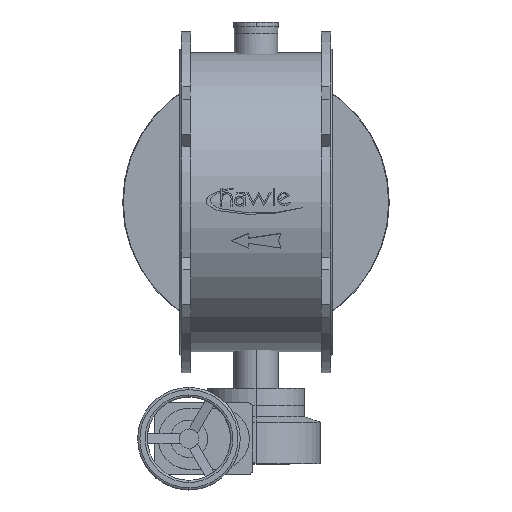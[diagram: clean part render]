
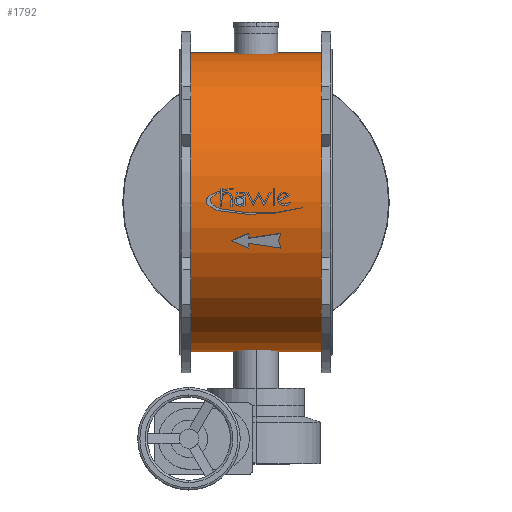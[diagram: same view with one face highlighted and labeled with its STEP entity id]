
A CAD part, top view. The second image highlights one B-rep face of the part: STEP entity #1792.
In plain terms, the highlighted cylindrical face has radius 540 mm (diameter 1080 mm), a partial arc.
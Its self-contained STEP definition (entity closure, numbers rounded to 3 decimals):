
#1792=ADVANCED_FACE('',(#3512),#3513,.T.);
#3512=FACE_OUTER_BOUND('',#5474,.T.);
#3513=CYLINDRICAL_SURFACE('',#5475,540.0);
#5474=EDGE_LOOP('',(#9012,#9013,#9014,#9015));
#5475=AXIS2_PLACEMENT_3D('',#9016,#9017,#9018);
#9012=ORIENTED_EDGE('',*,*,#11572,.T.);
#9013=ORIENTED_EDGE('',*,*,#10729,.T.);
#9014=ORIENTED_EDGE('',*,*,#11574,.T.);
#9015=ORIENTED_EDGE('',*,*,#11590,.T.);
#9016=CARTESIAN_POINT('',(-510.0,0.,0.0));
#9017=DIRECTION('',(1.0,0.,0.0));
#9018=DIRECTION('',(0.,-1.0,0.0));
#10729=EDGE_CURVE('',#12752,#12753,#12754,.T.);
#11572=EDGE_CURVE('',#13985,#12752,#13986,.T.);
#11574=EDGE_CURVE('',#12753,#13987,#13989,.T.);
#11590=EDGE_CURVE('',#13987,#13985,#14010,.T.);
#12752=VERTEX_POINT('',#15396);
#12753=VERTEX_POINT('',#15397);
#12754=CIRCLE('',#15398,540.0);
#13985=VERTEX_POINT('',#16946);
#13986=LINE('',#16947,#16948);
#13987=VERTEX_POINT('',#16949);
#13989=LINE('',#16951,#16952);
#14010=CIRCLE('',#16980,540.0);
#15396=CARTESIAN_POINT('',(-40.,-540.0,0.0));
#15397=CARTESIAN_POINT('',(-40.0,540.0,0.));
#15398=AXIS2_PLACEMENT_3D('',#18198,#18199,#18200);
#16946=CARTESIAN_POINT('',(-510.0,-540.0,0.0));
#16947=CARTESIAN_POINT('',(-510.0,-540.0,0.));
#16948=VECTOR('',#19391,1.0);
#16949=CARTESIAN_POINT('',(-510.0,540.0,0.));
#16951=CARTESIAN_POINT('',(-510.0,540.0,0.));
#16952=VECTOR('',#19395,1.0);
#16980=AXIS2_PLACEMENT_3D('',#19412,#19413,#19414);
#18198=CARTESIAN_POINT('',(-40.0,0.,0.0));
#18199=DIRECTION('',(-1.0,0.,0.0));
#18200=DIRECTION('',(0.,-1.0,0.0));
#19391=DIRECTION('',(1.0,0.,0.0));
#19395=DIRECTION('',(-1.0,0.,-0.0));
#19412=CARTESIAN_POINT('',(-510.0,0.,0.0));
#19413=DIRECTION('',(1.0,0.,0.0));
#19414=DIRECTION('',(0.,-1.0,0.0));
